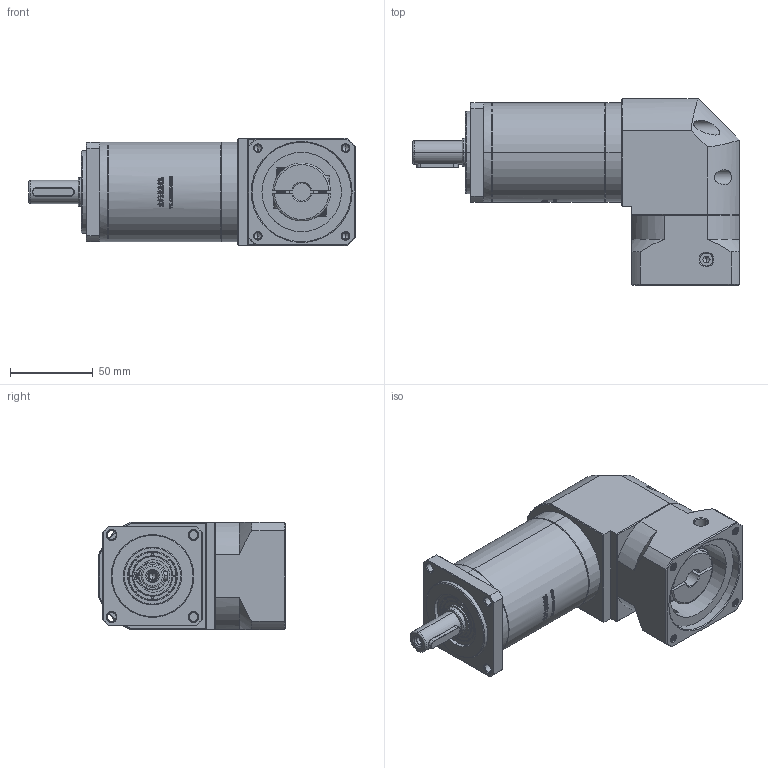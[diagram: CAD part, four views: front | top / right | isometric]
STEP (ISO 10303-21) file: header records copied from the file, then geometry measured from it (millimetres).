
FILE_DESCRIPTION (( 'STEP AP214' ), '1' );
FILE_NAME ('ZFR60-D14-L3-11-60-75-M5.STEP', '2022-04-20T08:55:34', ( '' ), ( 'Microsoft' ), 'SwSTEP 2.0', 'SolidWorks 2016', '' );
FILE_SCHEMA (( 'AUTOMOTIVE_DESIGN' ));
Length unit declared in the file: millimetre
Products named in the file (1): ZFR60-D14-L3-11-60-75-M5
Bounding box: 197.5 x 112.7 x 65 mm (x, y, z)
Volume: 651068.5 mm3; surface area: 86742.4 mm2
Topology: 5 solids, 6 shells, 2692 faces, 7316 edges, 4761 vertices
Faces by surface type: plane 1397, bspline 591, cylinder 402, cone 288, torus 14
Entity records: 149308 total; most frequent: CARTESIAN_POINT 57474, ORIENTED_EDGE 14588, DIRECTION 10444, EDGE_CURVE 7294, VERTEX_POINT 4761, LINE 4396, VECTOR 4396, AXIS2_PLACEMENT_3D 3024
